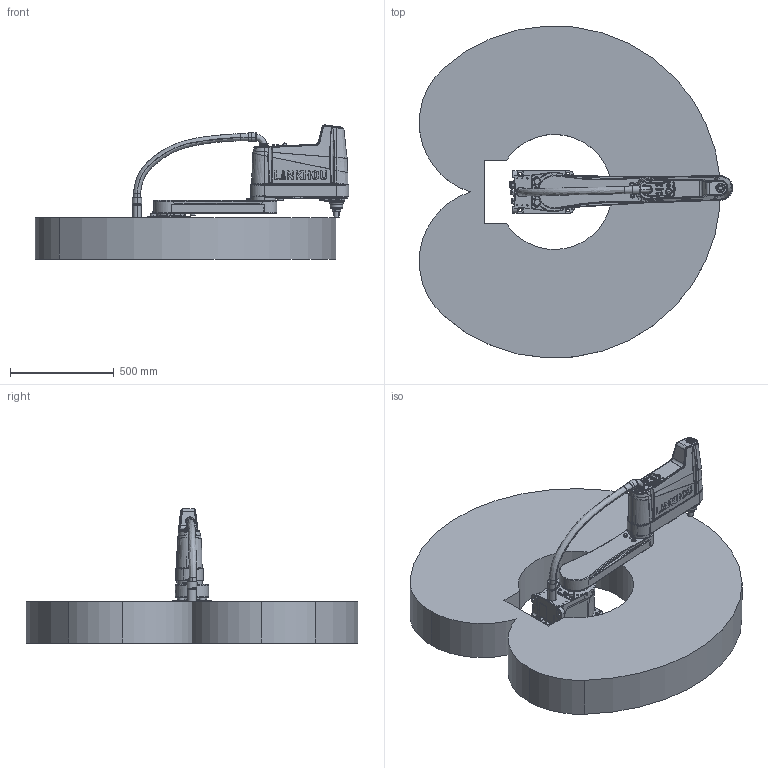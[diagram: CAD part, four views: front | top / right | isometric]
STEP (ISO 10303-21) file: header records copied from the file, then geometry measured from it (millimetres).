
FILE_DESCRIPTION (( 'STEP AP203' ), '1' );
FILE_NAME ('TM10A-R800ÓÐlogo2017.step', '2023-12-22T14:18:54', ( '' ), ( '' ), 'SwSTEP 2.0', 'SolidWorks 2017', '' );
FILE_SCHEMA (( 'CONFIG_CONTROL_DESIGN' ));
Length unit declared in the file: millimetre
Products named in the file (7): TM10A-R800ÓÐlogo2017; ¸´¼þ TM10A-R800¹Ü^TM10A-R800ÓÐlogo2017; 25佪裝440杅耀芞; ｸｴｼ TM10A-R800ｴﾛ^TM10A-R800ﾓﾐlogo2017; ｸｴｼ TM10A-R800ﾔﾋｶｯｷｶﾎｧﾍｼ^TM10A-R800ﾓﾐlogo2017; ｸｴｼ ｸｴｼ ｸｴｼ TM10A-ｵﾗﾗTM10A-R800ﾓﾐlogo2017; ｸｴｼ TM10Aﾐ｡ｱﾛﾓﾐlogo^TM10A-R800ﾓﾐlogo2017
Assembly tree (6 placements, depth 2):
  TM10A-R800ÓÐlogo2017
    ｸｴｼ ｸｴｼ ｸｴｼ TM10A-ｵﾗﾗTM10A-R800ﾓﾐlogo2017
    ｸｴｼ TM10A-R800ｴﾛ^TM10A-R800ﾓﾐlogo2017
    ｸｴｼ TM10Aﾐ｡ｱﾛﾓﾐlogo^TM10A-R800ﾓﾐlogo2017
    25佪裝440杅耀芞
    ¸´¼þ TM10A-R800¹Ü^TM10A-R800ÓÐlogo2017
    ｸｴｼ TM10A-R800ﾔﾋｶｯｷｶﾎｧﾍｼ^TM10A-R800ﾓﾐlogo2017
Bounding box: 1509.87 x 1597.97 x 645.82 mm (x, y, z)
Volume: 339852746 mm3; surface area: 6615125.5 mm2
Topology: 42 solids, 50 shells, 3263 faces, 8270 edges, 5221 vertices
Faces by surface type: plane 999, bspline 852, cylinder 836, cone 575, torus 1
Entity records: 192807 total; most frequent: CARTESIAN_POINT 122819, ORIENTED_EDGE 16326, DIRECTION 11377, EDGE_CURVE 8163, VERTEX_POINT 5221, AXIS2_PLACEMENT_3D 4275, EDGE_LOOP 3614, ADVANCED_FACE 3263
